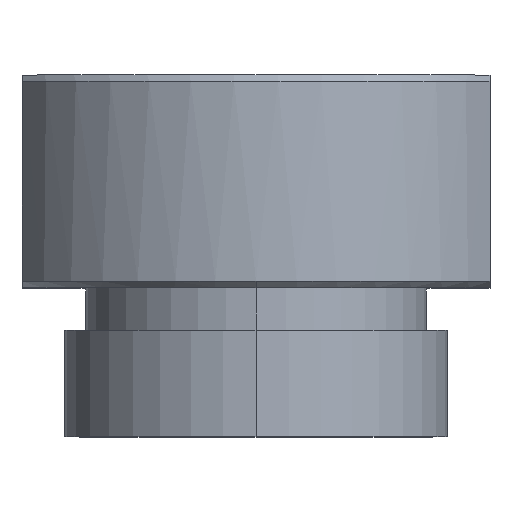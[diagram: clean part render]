
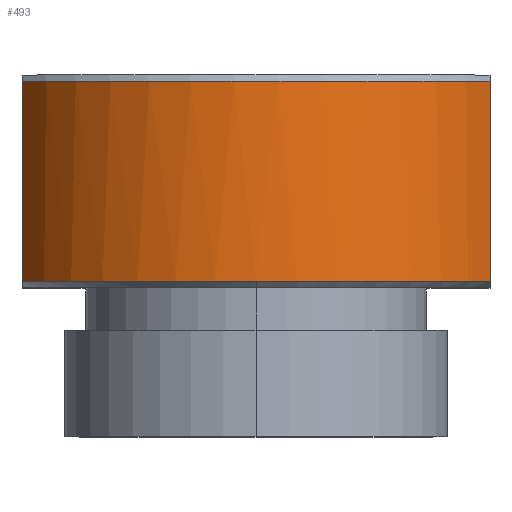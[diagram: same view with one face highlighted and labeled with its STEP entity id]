
A CAD part, top view. The second image highlights one B-rep face of the part: STEP entity #493.
In plain terms, the highlighted cylindrical face has radius 12.5 mm (diameter 25 mm), a partial arc.
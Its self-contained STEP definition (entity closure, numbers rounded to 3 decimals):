
#5 = CARTESIAN_POINT ( 'NONE',  ( 11., 0.3, 5.937 ) ) ;
#55 = CARTESIAN_POINT ( 'NONE',  ( 0., 0.3, 12.5 ) ) ;
#71 = CARTESIAN_POINT ( 'NONE',  ( 0., 0.3, 0. ) ) ;
#87 = CARTESIAN_POINT ( 'NONE',  ( 0., 0.3, 0. ) ) ;
#110 = EDGE_CURVE ( 'NONE', #549, #275, #738, .T. ) ;
#133 = DIRECTION ( 'NONE',  ( 0., 0., 1. ) ) ;
#153 = CARTESIAN_POINT ( 'NONE',  ( -11., 10., 5.937 ) ) ;
#157 = DIRECTION ( 'NONE',  ( 0., 0., 1. ) ) ;
#172 = DIRECTION ( 'NONE',  ( 0., 0., 1. ) ) ;
#228 = CYLINDRICAL_SURFACE ( 'NONE', #665, 12.5 ) ;
#262 = LINE ( 'NONE', #153, #320 ) ;
#275 = VERTEX_POINT ( 'NONE', #5 ) ;
#276 = CIRCLE ( 'NONE', #886, 12.5 ) ;
#297 = CARTESIAN_POINT ( 'NONE',  ( 11., 9.7, 5.937 ) ) ;
#306 = ORIENTED_EDGE ( 'NONE', *, *, #110, .F. ) ;
#320 = VECTOR ( 'NONE', #363, 1000. ) ;
#323 = CARTESIAN_POINT ( 'NONE',  ( 11., 10., 5.937 ) ) ;
#330 = EDGE_LOOP ( 'NONE', ( #954, #654, #762, #306, #703 ) ) ;
#351 = EDGE_CURVE ( 'NONE', #677, #451, #276, .T. ) ;
#363 = DIRECTION ( 'NONE',  ( 0., 1., 0. ) ) ;
#451 = VERTEX_POINT ( 'NONE', #55 ) ;
#464 = AXIS2_PLACEMENT_3D ( 'NONE', #87, #589, #157 ) ;
#470 = DIRECTION ( 'NONE',  ( 0., 0., -1. ) ) ;
#484 = CARTESIAN_POINT ( 'NONE',  ( 0., 9.7, 0. ) ) ;
#487 = DIRECTION ( 'NONE',  ( 0., -1., 0. ) ) ;
#493 = ADVANCED_FACE ( 'NONE', ( #645 ), #228, .T. ) ;
#513 = CIRCLE ( 'NONE', #464, 12.5 ) ;
#549 = VERTEX_POINT ( 'NONE', #297 ) ;
#551 = EDGE_CURVE ( 'NONE', #451, #275, #513, .T. ) ;
#560 = AXIS2_PLACEMENT_3D ( 'NONE', #484, #487, #133 ) ;
#564 = EDGE_CURVE ( 'NONE', #677, #710, #262, .T. ) ;
#589 = DIRECTION ( 'NONE',  ( 0., 1., 0. ) ) ;
#608 = DIRECTION ( 'NONE',  ( 0., 1., 0. ) ) ;
#628 = DIRECTION ( 'NONE',  ( 0., -1., 0. ) ) ;
#645 = FACE_OUTER_BOUND ( 'NONE', #330, .T. ) ;
#654 = ORIENTED_EDGE ( 'NONE', *, *, #351, .T. ) ;
#665 = AXIS2_PLACEMENT_3D ( 'NONE', #873, #628, #470 ) ;
#677 = VERTEX_POINT ( 'NONE', #968 ) ;
#703 = ORIENTED_EDGE ( 'NONE', *, *, #764, .T. ) ;
#710 = VERTEX_POINT ( 'NONE', #728 ) ;
#725 = CIRCLE ( 'NONE', #560, 12.5 ) ;
#728 = CARTESIAN_POINT ( 'NONE',  ( -11., 9.7, 5.937 ) ) ;
#738 = LINE ( 'NONE', #323, #923 ) ;
#762 = ORIENTED_EDGE ( 'NONE', *, *, #551, .T. ) ;
#764 = EDGE_CURVE ( 'NONE', #549, #710, #725, .T. ) ;
#873 = CARTESIAN_POINT ( 'NONE',  ( 0., 10., 0. ) ) ;
#886 = AXIS2_PLACEMENT_3D ( 'NONE', #71, #608, #172 ) ;
#923 = VECTOR ( 'NONE', #940, 1000. ) ;
#940 = DIRECTION ( 'NONE',  ( 0., -1., 0. ) ) ;
#954 = ORIENTED_EDGE ( 'NONE', *, *, #564, .F. ) ;
#968 = CARTESIAN_POINT ( 'NONE',  ( -11., 0.3, 5.937 ) ) ;
